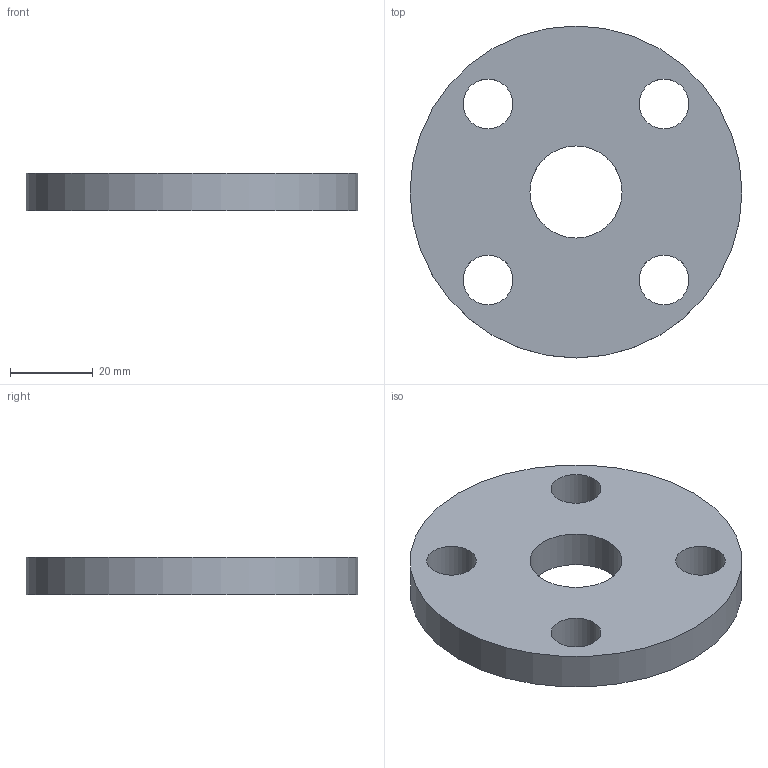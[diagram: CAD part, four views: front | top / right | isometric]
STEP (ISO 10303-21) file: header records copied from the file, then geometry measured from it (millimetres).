
FILE_DESCRIPTION(/* description */ (''),/* implementation_level */ '2;1');
FILE_NAME(/* name */ 'C:\Users\unitec\Documents\Inventor\HP\フランジ\5ksop\5ksop-15.stp',/* time_stamp */ '2016-03-16T15:22:57+09:00',/* author */ ('unitec'),/* organization */ (''),/* preprocessor_version */ 'ST-DEVELOPER v15.2',/* originating_system */ 'Autodesk Inventor 2014',/* authorisation */ '');
FILE_SCHEMA (('AUTOMOTIVE_DESIGN { 1 0 10303 214 3 1 1 }'));
Length unit declared in the file: millimetre
Products named in the file (1): 5ksop-15
Bounding box: 80 x 80 x 9 mm (x, y, z)
Volume: 37683.7 mm3; surface area: 12621 mm2
Topology: 1 solids, 1 shells, 8 faces, 18 edges, 12 vertices
Faces by surface type: cylinder 6, plane 2
Full cylindrical faces by diameter (mm): 12 x4, 22.2 x1, 80 x1
Entity records: 245 total; most frequent: DIRECTION 42, CARTESIAN_POINT 33, EDGE_LOOP 24, ORIENTED_EDGE 24, AXIS2_PLACEMENT_3D 21, FACE_BOUND 18, CIRCLE 12, VERTEX_POINT 12
